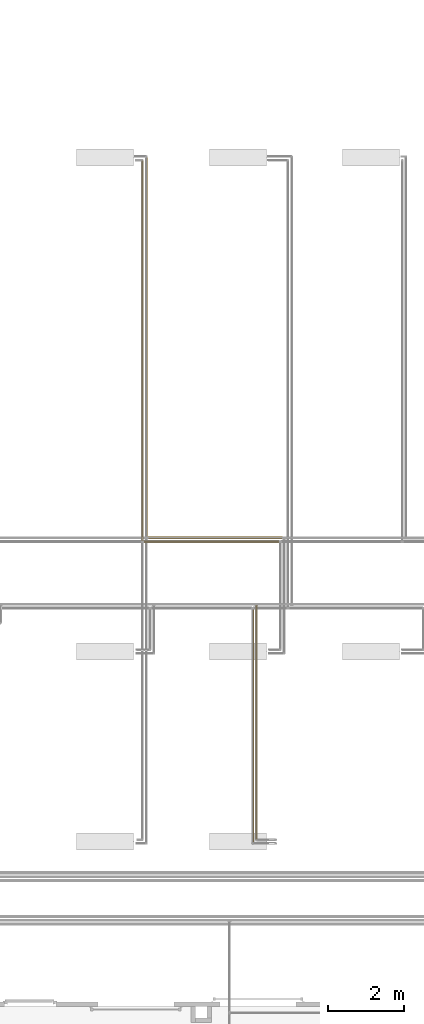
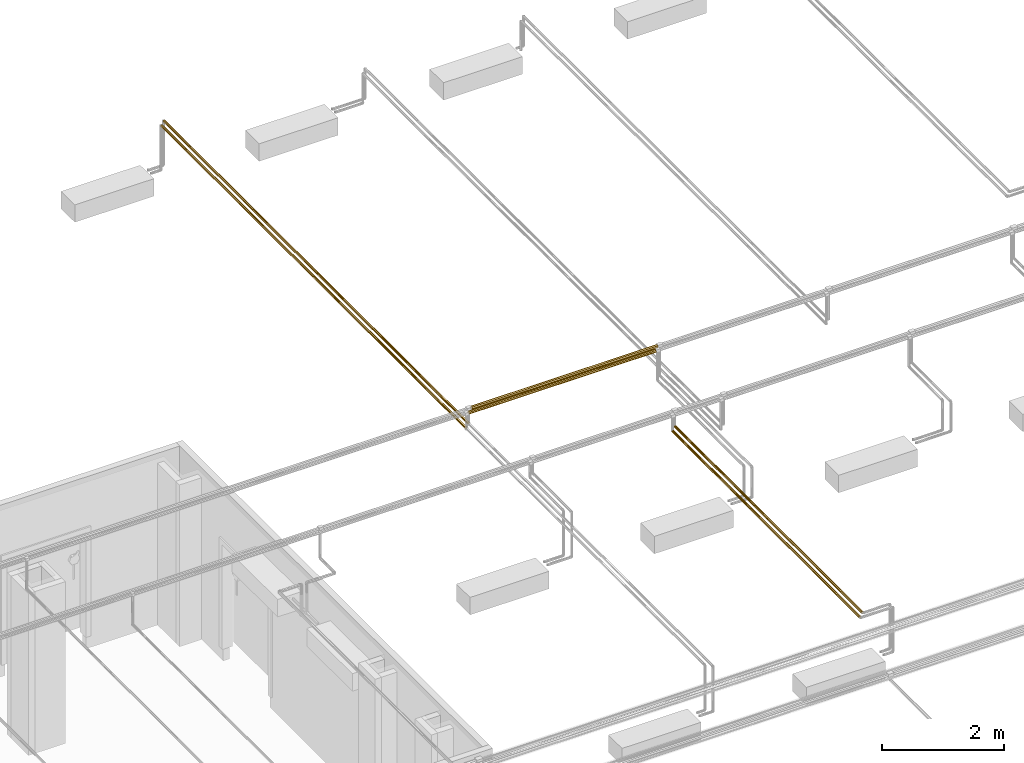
# One storey, part 126 of 652: 6 coverings.
"""IFC2X3 building model written with IfcOpenShell, lengths in millimetres."""

from ifc_helpers import new_model, entity, si_unit, converted_unit, direction, frame, origin, place, context, subcontext, project, spatial, faceted_brep, material, type_object, element, save


model = new_model("IFC2X3")

# Units and contexts
model_context = context("Model", 3, precision=0.01, world=frame((0.0, 0.0, 308426.39999999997)), true_north=direction((6.123233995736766e-17, 1.0)))
plan_context = context("Plan", 3, precision=0.01, world=frame((0.0, 0.0, 308426.39999999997)), true_north=direction((6.123233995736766e-17, 1.0)))
body_context = subcontext(model_context, "Body", "Model", "MODEL_VIEW")
ifc_project = project(units=[si_unit("LENGTHUNIT", "METRE", prefix="MILLI"), si_unit("AREAUNIT", "SQUARE_METRE"), si_unit("VOLUMEUNIT", "CUBIC_METRE"), converted_unit("PLANEANGLEUNIT", "DEGREE", entity("IfcPlaneAngleMeasure", 0.017453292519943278), si_unit("PLANEANGLEUNIT", "RADIAN"), dimensions=[0, 0, 0, 0, 0, 0, 0])], contexts=[model_context, plan_context])

# Site, building, storey
site_placement = place(None, origin())
site = spatial("IfcSite", under=ifc_project, at=site_placement, Name="Default", CompositionType="ELEMENT")
building_placement = place(site_placement, origin())
building = spatial("IfcBuilding", under=site, at=building_placement, CompositionType="ELEMENT")
storey_placement = place(building_placement, frame((0.0, 0.0, 1730.6999999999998)))
storey = spatial("IfcBuildingStorey", under=building, at=storey_placement, Name="EG_Produktion_FFB", CompositionType="ELEMENT", Elevation=1730.6999999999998)

# Coverings
ifc_material = material(Name="Dämmung - Armaflex-Schlauch")
covering_type = type_object("IfcCoveringType", Name="Rohrdämmung außen:Armaflex-Schlauch", PredefinedType="INSULATION")
covering_1_placement = place(storey_placement, frame((55478.06018313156, 69880.11722776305, 3934.882772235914)))
element("IfcCovering", 1, at=covering_1_placement, inside=storey, type_object=covering_type, material=ifc_material, Name="Rohrdämmung außen:Armaflex-Schlauch", ObjectType="Rohrdämmung außen:Armaflex-Schlauch", PredefinedType="INSULATION", context=body_context, shape_type="Brep", body=[
    faceted_brep([(3536.192066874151, 68.1702722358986, -34.882772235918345), (3536.1920668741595, 66.19539462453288, -30.114995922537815), (3536.192066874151, 63.295430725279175, -23.113863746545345), (3536.1920668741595, 60.85800996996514, -17.2294095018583), (3536.192066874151, 58.420589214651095, -11.344955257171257), (3536.192066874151, 52.536134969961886, -8.907534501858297), (3536.192066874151, 46.651680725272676, -6.470113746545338), (3536.192066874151, 40.76722648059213, -4.032692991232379), (3536.192066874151, 34.88277223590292, -1.5952722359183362), (3536.192066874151, 30.11499592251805, -3.5701498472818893), (3536.192066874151, 23.113863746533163, -6.470113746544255), (3536.192066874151, 17.22940950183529, -8.907534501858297), (3536.192066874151, 11.344955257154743, -11.344955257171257), (3536.192066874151, 8.9075345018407, -17.22940950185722), (3536.192066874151, 6.470113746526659, -23.11386374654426), (3536.1920668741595, 4.032692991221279, -28.998317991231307), (3536.192066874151, 1.5952722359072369, -34.882772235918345), (3536.192066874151, 4.032692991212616, -40.767226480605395), (3536.192066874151, 6.470113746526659, -46.65168072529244), (3536.192066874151, 8.907534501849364, -52.53613496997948), (3536.192066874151, 11.344955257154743, -58.42058921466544), (3536.1920668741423, 17.229409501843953, -60.8580099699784), (3536.192066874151, 23.113863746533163, -63.29543072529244), (3536.1920668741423, 28.99831799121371, -65.7328514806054), (3536.192066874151, 34.88277223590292, -68.17027223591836), (3536.1920668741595, 39.650548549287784, -66.19539462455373), (3536.192066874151, 46.651680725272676, -63.29543072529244), (3536.192066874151, 52.53613496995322, -60.858009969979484), (3536.192066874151, 58.420589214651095, -58.42058921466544), (3536.1920668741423, 60.85800996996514, -52.53613496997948), (3536.192066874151, 63.295430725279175, -46.65168072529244), (3536.192066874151, 65.73285148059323, -40.767226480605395), (0.0, 52.53613496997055, -60.85800996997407), (0.0, 46.65168072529, -63.295430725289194), (0.0, 40.76722648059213, -65.73285148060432), (0.0, 34.88277223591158, -68.1702722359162), (0.0, 25.34721960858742, -64.2205170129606), (0.0, 18.346087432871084, -61.32055311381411), (0.0, 11.344955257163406, -58.42058921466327), (0.0, 8.907534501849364, -52.536134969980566), (0.0, 6.470113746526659, -46.65168072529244), (0.0, 4.032692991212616, -40.76722648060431), (0.0, 1.5952722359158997, -34.882772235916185), (0.0, 5.5450274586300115, -25.347219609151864), (0.0, 8.444991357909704, -18.346087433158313), (0.0, 11.344955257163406, -11.344955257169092), (0.0, 17.229409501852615, -8.907534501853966), (0.0, 23.113863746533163, -6.470113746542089), (0.0, 28.998317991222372, -4.0326929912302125), (0.0, 34.88277223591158, -1.5952722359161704), (0.0, 44.41832486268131, -5.54502745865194), (0.0, 51.41945703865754, -8.444991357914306), (0.0, 58.420589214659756, -11.344955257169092), (0.0, 60.85800996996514, -17.229409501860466), (0.0, 63.295430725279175, -23.11386374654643), (0.0, 65.73285148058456, -28.998317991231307), (0.0, 68.17027223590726, -34.882772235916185), (0.0, 64.2205170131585, -44.4183248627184), (0.0, 61.32055311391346, -51.41945703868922), (0.0, 58.420589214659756, -58.42058921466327)], [[[0, 1, 2, 3, 4, 5, 6, 7, 8, 9, 10, 11, 12, 13, 14, 15, 16, 17, 18, 19, 20, 21, 22, 23, 24, 25, 26, 27, 28, 29, 30, 31]], [[32, 33, 34, 35, 36, 37, 38, 39, 40, 41, 42, 43, 44, 45, 46, 47, 48, 49, 50, 51, 52, 53, 54, 55, 56, 57, 58, 59]], [[40, 39, 38, 20, 19, 18, 17, 16, 42, 41]], [[36, 35, 24, 23, 22, 21, 20, 38, 37]], [[33, 32, 59, 28, 27, 26, 25, 24, 35, 34]], [[28, 59, 58, 57, 56, 0, 31, 30, 29]], [[54, 53, 52, 4, 3, 2, 1, 0, 56, 55]], [[4, 52, 51, 50, 49, 8, 7, 6, 5]], [[47, 46, 45, 12, 11, 10, 9, 8, 49, 48]], [[12, 45, 44, 43, 42, 16, 15, 14, 13]]]),
])
covering_2_placement = place(storey_placement, frame((55369.360683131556, 69783.29222776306, 3868.2922277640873)))
element("IfcCovering", 2, at=covering_2_placement, inside=storey, type_object=covering_type, material=ifc_material, Name="Rohrdämmung außen:Armaflex-Schlauch", ObjectType="Rohrdämmung außen:Armaflex-Schlauch", PredefinedType="INSULATION", context=body_context, shape_type="Brep", body=[
    faceted_brep([(3553.5910668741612, 61.8202722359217, 31.70777223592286), (3553.5910668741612, 60.129414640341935, 35.78986357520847), (3553.5910668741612, 57.41039871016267, 42.354148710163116), (3553.5910668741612, 55.20546194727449, 47.67733694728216), (3553.5910668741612, 53.000525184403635, 53.000525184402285), (3553.5910668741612, 47.677336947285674, 55.2054619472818), (3553.5910668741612, 42.35414871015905, 57.4103987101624), (3553.5910668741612, 37.03096047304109, 59.615335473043), (3553.5910668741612, 31.70777223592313, 61.82027223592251), (3553.5910668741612, 27.62568089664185, 60.12941464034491), (3553.5910668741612, 21.06139576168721, 57.4103987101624), (3553.5910668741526, 15.738207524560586, 55.2054619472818), (3553.5910668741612, 10.415019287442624, 53.000525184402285), (3553.5910668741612, 8.21008252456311, 47.67733694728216), (3553.5910668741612, 6.005145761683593, 42.354148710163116), (3553.5910668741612, 3.800208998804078, 37.03096047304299), (3553.5910668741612, 1.5952722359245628, 31.70777223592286), (3553.5910668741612, 3.800208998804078, 26.384583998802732), (3553.5910668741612, 6.005145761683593, 21.061395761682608), (3553.5910668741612, 8.21008252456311, 15.738207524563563), (3553.5910668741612, 10.415019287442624, 10.415019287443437), (3553.5910668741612, 15.738207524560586, 8.210082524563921), (3553.5910668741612, 21.06139576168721, 6.005145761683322), (3553.5910668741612, 26.384583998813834, 3.8002089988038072), (3553.5910668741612, 31.70777223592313, 1.5952722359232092), (3553.5910668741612, 35.789863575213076, 3.286129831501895), (3553.59106687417, 42.35414871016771, 6.005145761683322), (3553.5910668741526, 47.677336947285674, 8.210082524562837), (3553.5910668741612, 53.000525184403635, 10.415019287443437), (3553.5910668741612, 55.205461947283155, 15.738207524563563), (3553.59106687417, 57.410398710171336, 21.061395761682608), (3553.59106687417, 59.61533547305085, 26.384583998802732), (0.0, 47.677336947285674, 8.210082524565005), (0.0, 42.35414871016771, 6.005145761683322), (0.0, 37.03096047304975, 3.8002089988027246), (0.0, 31.707772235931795, 1.595272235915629), (0.0, 23.54358955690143, 4.976987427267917), (0.0, 16.979304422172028, 7.696003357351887), (0.0, 10.415019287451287, 10.415019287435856), (0.0, 8.210082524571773, 15.738207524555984), (0.0, 6.005145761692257, 21.06139576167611), (0.0, 3.8002089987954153, 26.384583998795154), (0.0, 1.5952722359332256, 31.707772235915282), (0.0, 4.9769874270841, 39.87195491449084), (0.0, 7.696003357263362, 46.43624004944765), (0.0, 10.415019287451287, 53.000525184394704), (0.0, 15.738207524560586, 55.205461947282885), (0.0, 21.06139576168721, 57.4103987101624), (0.0, 26.384583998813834, 59.615335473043), (0.0, 31.707772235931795, 61.820272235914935), (0.0, 39.87195491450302, 58.438557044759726), (0.0, 46.43624004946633, 55.71954111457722), (0.0, 53.000525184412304, 53.000525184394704), (0.0, 55.205461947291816, 47.677336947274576), (0.0, 57.410398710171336, 42.354148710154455), (0.0, 59.61533547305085, 37.03096047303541), (0.0, 61.82027223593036, 31.707772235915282), (0.0, 58.4385570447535, 23.543589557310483), (0.0, 55.719541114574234, 16.979304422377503), (0.0, 53.000525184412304, 10.415019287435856)], [[[0, 1, 2, 3, 4, 5, 6, 7, 8, 9, 10, 11, 12, 13, 14, 15, 16, 17, 18, 19, 20, 21, 22, 23, 24, 25, 26, 27, 28, 29, 30, 31]], [[32, 33, 34, 35, 36, 37, 38, 39, 40, 41, 42, 43, 44, 45, 46, 47, 48, 49, 50, 51, 52, 53, 54, 55, 56, 57, 58, 59]], [[40, 39, 38, 20, 19, 18, 17, 16, 42, 41]], [[36, 35, 24, 23, 22, 21, 20, 38, 37]], [[33, 32, 59, 28, 27, 26, 25, 24, 35, 34]], [[28, 59, 58, 57, 56, 0, 31, 30, 29]], [[54, 53, 52, 4, 3, 2, 1, 0, 56, 55]], [[4, 52, 51, 50, 49, 8, 7, 6, 5]], [[47, 46, 45, 12, 11, 10, 9, 8, 49, 48]], [[12, 45, 44, 43, 42, 16, 15, 14, 13]]]),
])
covering_3_placement = place(storey_placement, frame((55406.95466089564, 69933.05397776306, 3574.6422277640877)))
element("IfcCovering", 3, at=covering_3_placement, inside=storey, type_object=covering_type, material=ifc_material, Name="Rohrdämmung außen:Armaflex-Schlauch", ObjectType="Rohrdämmung außen:Armaflex-Schlauch", PredefinedType="INSULATION", context=body_context, shape_type="Brep", body=[
    faceted_brep([(12.755803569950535, 1.5952722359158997, 6.8151785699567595), (16.956459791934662, 1.5952722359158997, 5.075209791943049), (20.4540186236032, 1.5952722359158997, 3.6264734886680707), (25.35777223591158, 1.5952722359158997, 1.595272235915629), (29.558428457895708, 1.5952722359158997, 3.335241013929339), (33.759084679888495, 1.5952722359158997, 5.075209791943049), (37.95974090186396, 1.5952722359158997, 6.8151785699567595), (42.160397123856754, 1.5952722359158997, 8.55514734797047), (43.90036590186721, 1.5952722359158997, 12.755803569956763), (45.640334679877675, 1.5952722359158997, 16.956459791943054), (47.089070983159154, 1.5952722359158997, 20.454018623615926), (49.12027223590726, 1.5952722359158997, 25.35777223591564), (47.7397929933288, 1.5952722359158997, 30.91636154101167), (46.35931375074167, 1.5952722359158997, 36.474950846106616), (42.53992347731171, 1.5952722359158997, 40.740986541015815), (38.72053320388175, 1.5952722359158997, 45.007022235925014), (11.995011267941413, 1.5952722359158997, 45.007022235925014), (8.175620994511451, 1.5952722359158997, 40.7409865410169), (4.356230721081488, 1.5952722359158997, 36.474950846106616), (2.9757514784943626, 1.5952722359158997, 30.91636154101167), (1.5952722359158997, 1.5952722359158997, 25.35777223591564), (3.626473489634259, 1.5952722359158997, 20.454018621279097), (5.075209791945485, 1.5952722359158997, 16.956459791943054), (6.815178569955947, 1.5952722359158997, 12.755803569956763), (8.55514734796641, 1.5952722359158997, 8.55514734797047), (40.928415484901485, 10003.998427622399, 7.40752223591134), (9.787128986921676, 10003.998427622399, 7.40752223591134), (6.764379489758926, 10003.998427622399, 11.448105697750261), (3.7416299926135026, 10003.998427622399, 15.4886891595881), (2.743952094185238, 10003.998427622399, 20.076072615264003), (1.5952722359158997, 10003.998427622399, 25.35777223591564), (3.62647348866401, 10003.998427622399, 30.26152584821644), (5.075209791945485, 10003.998427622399, 33.759084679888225), (6.815178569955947, 10003.998427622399, 37.95974090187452), (8.55514734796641, 10003.998427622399, 42.16039712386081), (12.755803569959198, 10003.998427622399, 43.90036590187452), (16.956459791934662, 10003.998427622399, 45.640334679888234), (21.157116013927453, 10003.998427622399, 47.380303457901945), (25.35777223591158, 10003.998427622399, 49.12027223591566), (29.558428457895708, 10003.998427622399, 47.380303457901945), (33.759084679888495, 10003.998427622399, 45.640334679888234), (37.95974090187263, 10003.998427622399, 43.90036590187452), (42.160397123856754, 10003.998427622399, 42.16039712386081), (43.90036590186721, 10003.998427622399, 37.95974090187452), (45.640334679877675, 10003.998427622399, 33.759084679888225), (47.089070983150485, 10003.998427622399, 30.261525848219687), (49.12027223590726, 10003.998427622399, 25.35777223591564), (47.971592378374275, 10003.998427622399, 20.076072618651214), (46.97391447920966, 10003.998427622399, 15.48868915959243), (43.95116498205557, 10003.998427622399, 11.448105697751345), (13.417429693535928, 10001.84251930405, 5.251613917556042), (17.047730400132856, 9999.686610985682, 3.0957055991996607), (1.5952722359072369, 4557.297604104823, 25.35777223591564), (25.35777223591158, 4551.305281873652, 1.595272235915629), (20.02620166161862, 9999.148828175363, 2.55792278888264), (25.35777223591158, 9998.186177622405, 1.595272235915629), (25.35777223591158, 5448.330844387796, 1.595272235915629), (1.5952722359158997, 5448.2960868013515, 25.35777223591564), (37.49322887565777, 5322.869569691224, 4.927718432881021), (30.68934281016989, 9999.148828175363, 2.5579227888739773), (33.66781407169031, 9999.686610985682, 3.0957055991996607), (37.2981147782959, 10001.84251930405, 5.251613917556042), (49.12027223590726, 4557.297612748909, 25.35777223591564), (49.12027223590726, 5448.296087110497, 25.35777223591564), (32.34851980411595, 4.656941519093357, 48.0686915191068), (25.35777223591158, 4557.297612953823, 49.12027223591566), (25.35777223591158, 5.708522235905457, 49.12027223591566), (18.36702466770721, 4.656941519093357, 48.0686915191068)], [[[0, 1, 2, 3, 4, 5, 6, 7, 8, 9, 10, 11, 12, 13, 14, 15, 16, 17, 18, 19, 20, 21, 22, 23, 24]], [[25, 26, 27, 28, 29, 30, 31, 32, 33, 34, 35, 36, 37, 38, 39, 40, 41, 42, 43, 44, 45, 46, 47, 48, 49]], [[21, 29, 22]], [[50, 51, 1]], [[21, 20, 52]], [[22, 29, 28]], [[23, 22, 28]], [[0, 24, 26]], [[0, 26, 50]], [[53, 3, 2]], [[26, 24, 27]], [[54, 2, 51]], [[51, 2, 1]], [[54, 55, 56, 53]], [[2, 54, 53]], [[27, 24, 23]], [[29, 52, 57, 30]], [[29, 21, 52]], [[23, 28, 27]], [[50, 1, 0]], [[58, 7, 6, 5]], [[4, 59, 60]], [[4, 3, 53, 56]], [[7, 58, 25]], [[58, 60, 61, 25]], [[48, 8, 49]], [[10, 47, 62]], [[56, 59, 4]], [[56, 55, 59]], [[47, 46, 63, 62]], [[4, 60, 5]], [[9, 8, 48]], [[9, 47, 10]], [[49, 8, 7]], [[5, 60, 58]], [[47, 9, 48]], [[62, 11, 10]], [[49, 7, 25]], [[44, 12, 45]], [[12, 11, 62, 63]], [[64, 40, 39]], [[15, 14, 42]], [[12, 44, 13]], [[43, 14, 13]], [[65, 66, 64]], [[39, 38, 65]], [[63, 45, 12]], [[15, 42, 41, 40]], [[65, 64, 39]], [[15, 40, 64]], [[13, 44, 43]], [[43, 42, 14]], [[63, 46, 45]], [[37, 65, 38]], [[18, 32, 19]], [[16, 34, 17]], [[37, 36, 67]], [[67, 36, 16]], [[16, 36, 35, 34]], [[19, 57, 52, 20]], [[67, 65, 37]], [[17, 33, 18]], [[65, 67, 66]], [[17, 34, 33]], [[19, 31, 57]], [[33, 32, 18]], [[31, 19, 32]], [[31, 30, 57]], [[67, 16, 15, 64, 66]], [[60, 59, 55, 54, 51, 50, 26, 25, 61]]]),
])
covering_4_placement = place(storey_placement, frame((58306.95466089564, 61986.39153550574, 3574.642227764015)))
element("IfcCovering", 4, at=covering_4_placement, inside=storey, type_object=covering_type, material=ifc_material, Name="Rohrdämmung außen:Armaflex-Schlauch", ObjectType="Rohrdämmung außen:Armaflex-Schlauch", PredefinedType="INSULATION", context=body_context, shape_type="Brep", body=[
    faceted_brep([(9.787128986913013, 6160.658214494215, 43.30802223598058), (40.92841548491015, 6160.658214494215, 43.30802223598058), (43.951164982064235, 6160.658214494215, 39.26743877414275), (46.97391447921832, 6160.658214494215, 35.22685531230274), (48.047093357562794, 6160.658214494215, 30.292313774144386), (49.12027223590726, 6160.658214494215, 25.357772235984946), (47.38030345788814, 6160.658214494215, 21.157116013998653), (45.640334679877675, 6160.658214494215, 16.95645979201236), (43.90036590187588, 6160.658214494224, 12.755803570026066), (42.160397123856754, 6160.658214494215, 8.555147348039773), (37.95974090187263, 6160.658214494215, 6.815178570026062), (33.759084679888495, 6160.658214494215, 5.075209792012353), (28.659821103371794, 6160.658214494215, 2.9630256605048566), (25.35777223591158, 6160.658214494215, 1.5952722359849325), (22.055723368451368, 6160.658214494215, 2.963025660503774), (16.956459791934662, 6160.658214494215, 5.075209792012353), (12.755803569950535, 6160.658214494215, 6.815178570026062), (8.55514734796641, 6160.658214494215, 8.555147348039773), (6.815178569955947, 6160.658214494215, 12.755803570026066), (5.075209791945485, 6160.658214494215, 16.95645979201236), (3.3352410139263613, 6160.658214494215, 21.157116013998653), (1.5952722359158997, 6160.658214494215, 25.357772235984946), (2.6684511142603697, 6160.658214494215, 30.292313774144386), (3.7416299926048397, 6160.658214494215, 35.22685531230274), (6.764379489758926, 6160.658214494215, 39.26743877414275), (43.30802223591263, 1.5952722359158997, 40.928415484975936), (39.26743877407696, 1.5952722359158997, 43.951164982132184), (35.22685531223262, 1.5952722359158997, 46.97391447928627), (30.292313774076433, 1.5952722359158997, 48.04709335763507), (25.35777223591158, 1.5952722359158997, 49.12027223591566), (21.157116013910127, 1.5952722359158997, 47.38030345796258), (16.956459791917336, 1.5952722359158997, 45.64033467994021), (12.755803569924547, 1.5952722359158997, 43.90036590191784), (8.55514734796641, 1.5952722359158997, 42.16039712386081), (6.815178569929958, 1.5952722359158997, 37.95974090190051), (5.07520979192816, 1.5952722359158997, 33.759084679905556), (3.3352410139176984, 1.5952722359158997, 29.558428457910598), (1.5952722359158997, 1.5952722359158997, 25.35777223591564), (4.330779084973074, 1.5952722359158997, 18.753674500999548), (6.4429632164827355, 1.5952722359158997, 13.654410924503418), (8.55514734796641, 1.5952722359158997, 8.55514734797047), (12.755803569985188, 1.5952722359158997, 6.815178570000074), (16.95645979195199, 1.5952722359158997, 5.075209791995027), (21.157116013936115, 1.5952722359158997, 3.3352410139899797), (25.35777223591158, 1.5952722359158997, 1.595272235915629), (30.29231377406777, 1.5952722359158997, 2.668451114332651), (35.22685531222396, 1.5952722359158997, 3.741629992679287), (39.267438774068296, 1.5952722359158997, 6.764379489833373), (43.30802223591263, 1.5952722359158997, 9.78712898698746), (49.12027223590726, 7.407522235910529, 25.35777223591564), (48.37005555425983, 6.657305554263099, 21.20275131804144), (47.6198388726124, 5.9070888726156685, 17.047730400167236), (45.46393055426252, 3.751180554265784, 13.417429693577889), (21.202751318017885, 6155.59618117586, 48.37005555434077), (17.04773040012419, 6156.346397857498, 47.61983887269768), (13.417429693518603, 6158.502306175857, 45.46393055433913), (25.35777223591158, 6154.845964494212, 49.120272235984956), (29.512793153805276, 6155.59618117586, 48.37005555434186), (33.66781407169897, 6156.346397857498, 47.61983887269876), (37.29811477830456, 6158.502306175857, 45.463930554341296), (45.46393055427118, 3.75118055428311, 37.298114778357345), (48.37005555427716, 6.657305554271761, 29.51279315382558), (47.61983887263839, 5.9070888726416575, 33.66781407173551)], [[[0, 1, 2, 3, 4, 5, 6, 7, 8, 9, 10, 11, 12, 13, 14, 15, 16, 17, 18, 19, 20, 21, 22, 23, 24]], [[25, 26, 27, 28, 29, 30, 31, 32, 33, 34, 35, 36, 37, 38, 39, 40, 41, 42, 43, 44, 45, 46, 47, 48]], [[49, 50, 5]], [[45, 44, 12]], [[6, 50, 51]], [[52, 7, 51]], [[46, 10, 47]], [[46, 45, 11]], [[48, 8, 52]], [[44, 13, 12]], [[47, 10, 9]], [[11, 45, 12]], [[46, 11, 10]], [[9, 48, 47]], [[5, 50, 6]], [[6, 51, 7]], [[8, 48, 9]], [[8, 7, 52]], [[42, 41, 40, 17, 16, 15, 14, 13, 44, 43]], [[17, 40, 39, 38, 37, 21, 20, 19, 18]], [[24, 34, 33]], [[29, 53, 30]], [[33, 0, 24]], [[35, 23, 22]], [[35, 34, 23]], [[37, 36, 21]], [[54, 31, 30]], [[22, 36, 35]], [[31, 54, 55]], [[21, 36, 22]], [[53, 54, 30]], [[0, 32, 55]], [[23, 34, 24]], [[56, 53, 29]], [[32, 0, 33]], [[32, 31, 55]], [[57, 56, 29]], [[28, 58, 57]], [[59, 26, 1]], [[2, 60, 3]], [[59, 58, 27]], [[60, 2, 25]], [[61, 5, 4]], [[27, 58, 28]], [[61, 49, 5]], [[57, 29, 28]], [[26, 59, 27]], [[3, 62, 4]], [[26, 25, 1]], [[4, 62, 61]], [[2, 1, 25]], [[60, 62, 3]], [[1, 0, 55, 54, 53, 56, 57, 58, 59]], [[25, 48, 52, 51, 50, 49, 61, 62, 60]]]),
])
covering_5_placement = place(storey_placement, frame((58206.95466089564, 61886.39153550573, 3574.6422277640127)))
element("IfcCovering", 5, at=covering_5_placement, inside=storey, type_object=covering_type, material=ifc_material, Name="Rohrdämmung außen:Armaflex-Schlauch", ObjectType="Rohrdämmung außen:Armaflex-Schlauch", PredefinedType="INSULATION", context=body_context, shape_type="Brep", body=[
    faceted_brep([(1.5952722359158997, 1.5952722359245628, 25.35777223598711), (3.3352410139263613, 1.5952722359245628, 21.157116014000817), (5.075209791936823, 1.5952722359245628, 16.956459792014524), (6.815178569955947, 1.5952722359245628, 12.755803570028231), (8.55514734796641, 1.5952722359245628, 8.555147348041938), (12.755803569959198, 1.5952722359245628, 6.815178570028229), (16.956459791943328, 1.5952722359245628, 5.075209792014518), (21.157116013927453, 1.5952722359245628, 3.3352410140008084), (25.35777223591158, 1.5952722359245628, 1.5952722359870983), (30.292313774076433, 1.5952722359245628, 2.6684511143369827), (35.22685531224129, 1.5952722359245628, 3.7416299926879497), (39.26743877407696, 1.5952722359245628, 6.7643794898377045), (43.30802223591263, 1.5952722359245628, 9.78712898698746), (43.30802223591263, 1.5952722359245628, 40.92841548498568), (39.26743877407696, 1.5952722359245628, 43.95116498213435), (35.22685531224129, 1.5952722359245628, 46.97391447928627), (30.292313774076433, 1.5952722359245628, 48.04709335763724), (25.35777223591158, 1.5952722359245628, 49.12027223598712), (21.15711601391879, 1.5952722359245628, 47.38030345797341), (16.956459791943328, 1.5952722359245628, 45.6403346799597), (12.755803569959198, 1.5952722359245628, 43.900365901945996), (8.55514734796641, 1.5952722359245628, 42.160397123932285), (6.815178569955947, 1.5952722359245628, 37.95974090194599), (5.075209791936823, 1.5952722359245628, 33.7590846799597), (2.963025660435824, 1.5952722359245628, 28.65982110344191), (1.5952722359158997, 6160.6582144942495, 25.35777223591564), (2.668451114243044, 6160.6582144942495, 30.292313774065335), (3.741629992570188, 6160.6582144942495, 35.22685531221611), (6.764379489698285, 6160.6582144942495, 39.26743877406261), (9.787128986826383, 6160.6582144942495, 43.30802223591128), (40.928415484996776, 6160.6582144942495, 43.30802223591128), (43.95116498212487, 6160.6582144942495, 39.26743877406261), (46.973914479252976, 6160.6582144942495, 35.22685531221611), (48.04709335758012, 6160.6582144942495, 30.292313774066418), (49.12027223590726, 6160.6582144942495, 25.35777223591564), (47.38030345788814, 6160.6582144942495, 21.157116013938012), (45.640334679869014, 6160.6582144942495, 16.956459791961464), (43.90036590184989, 6160.6582144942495, 12.755803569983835), (42.160397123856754, 6160.6582144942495, 8.55514734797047), (37.95974090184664, 6160.6582144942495, 6.815178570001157), (33.75908467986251, 6160.6582144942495, 5.07520979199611), (29.558428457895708, 6160.6582144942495, 3.3352410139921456), (25.35777223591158, 6160.6582144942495, 1.595272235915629), (18.75367450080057, 6160.6582144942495, 4.330779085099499), (13.654410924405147, 6160.6582144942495, 6.442963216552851), (8.55514734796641, 6160.6582144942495, 8.55514734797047), (6.815178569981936, 6160.6582144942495, 12.755803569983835), (5.075209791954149, 6160.6582144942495, 16.956459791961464), (3.335241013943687, 6160.658214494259, 21.157116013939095), (48.3700555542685, 6.657305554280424, 21.2027513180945), (47.61983887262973, 5.9070888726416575, 17.04773040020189), (45.46393055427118, 3.75118055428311, 13.417429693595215), (49.12027223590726, 7.407522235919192, 25.35777223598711), (48.3700555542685, 6.657305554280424, 29.512793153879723), (47.61983887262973, 5.9070888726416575, 33.66781407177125), (45.46393055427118, 3.75118055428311, 37.29811477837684), (37.298114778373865, 6158.502306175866, 45.463930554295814), (33.667814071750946, 6156.346397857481, 47.619838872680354), (29.512793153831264, 6155.596181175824, 48.37005555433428), (25.35777223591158, 6154.845964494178, 49.12027223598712), (21.202751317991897, 6155.596181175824, 48.37005555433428), (17.047730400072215, 6156.346397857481, 47.619838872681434), (13.417429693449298, 6158.502306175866, 45.463930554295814)], [[[0, 1, 2, 3, 4, 5, 6, 7, 8, 9, 10, 11, 12, 13, 14, 15, 16, 17, 18, 19, 20, 21, 22, 23, 24]], [[25, 26, 27, 28, 29, 30, 31, 32, 33, 34, 35, 36, 37, 38, 39, 40, 41, 42, 43, 44, 45, 46, 47, 48]], [[47, 46, 45, 4, 3, 2, 1, 0, 25, 48]], [[43, 42, 8, 7, 6, 5, 4, 45, 44]], [[11, 39, 38]], [[42, 41, 8]], [[40, 10, 9]], [[40, 39, 10]], [[34, 49, 35]], [[50, 36, 35]], [[12, 37, 51]], [[9, 41, 40]], [[36, 50, 51]], [[10, 39, 11]], [[49, 50, 35]], [[8, 41, 9]], [[38, 12, 11]], [[52, 49, 34]], [[37, 12, 38]], [[37, 36, 51]], [[53, 52, 34]], [[33, 54, 53]], [[55, 31, 13]], [[14, 56, 15]], [[56, 57, 15]], [[56, 14, 30]], [[55, 54, 32]], [[58, 17, 16]], [[32, 54, 33]], [[58, 59, 17]], [[53, 34, 33]], [[31, 30, 13]], [[31, 55, 32]], [[14, 13, 30]], [[16, 57, 58]], [[15, 57, 16]], [[59, 60, 17]], [[26, 25, 24]], [[18, 60, 61]], [[27, 22, 28]], [[62, 19, 61]], [[21, 29, 28]], [[27, 26, 23]], [[23, 26, 24]], [[17, 60, 18]], [[28, 22, 21]], [[25, 0, 24]], [[27, 23, 22]], [[19, 62, 20]], [[29, 20, 62]], [[18, 61, 19]], [[20, 29, 21]], [[12, 51, 50, 49, 52, 53, 54, 55, 13]], [[57, 56, 30, 29, 62, 61, 60, 59, 58]]]),
])
covering_6_placement = place(storey_placement, frame((55306.95466089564, 69833.05397776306, 3574.642227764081)))
element("IfcCovering", 6, at=covering_6_placement, inside=storey, type_object=covering_type, material=ifc_material, Name="Rohrdämmung außen:Armaflex-Schlauch", ObjectType="Rohrdämmung außen:Armaflex-Schlauch", PredefinedType="INSULATION", context=body_context, shape_type="Brep", body=[
    faceted_brep([(12.755803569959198, 1.5952722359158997, 6.8151785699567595), (16.956459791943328, 1.5952722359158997, 5.075209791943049), (20.4540186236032, 1.5952722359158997, 3.6264734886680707), (25.35777223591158, 1.5952722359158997, 1.595272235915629), (29.558428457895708, 1.5952722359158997, 3.335241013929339), (33.759084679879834, 1.5952722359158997, 5.075209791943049), (37.95974090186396, 1.5952722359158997, 6.8151785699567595), (42.160397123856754, 1.5952722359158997, 8.55514734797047), (43.90036590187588, 1.5952722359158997, 12.755803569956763), (45.640334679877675, 1.5952722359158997, 16.956459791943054), (47.089070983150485, 1.5952722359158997, 20.454018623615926), (49.12027223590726, 1.5952722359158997, 25.35777223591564), (47.73979299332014, 1.5952722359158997, 30.916361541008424), (46.35931375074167, 1.5952722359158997, 36.47495084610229), (42.53992347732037, 1.5952722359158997, 40.7409865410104), (38.72053320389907, 1.5952722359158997, 45.00702223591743), (11.995011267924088, 1.5952722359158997, 45.00702223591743), (8.175620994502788, 1.5952722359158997, 40.7409865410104), (4.356230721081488, 1.5952722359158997, 36.47495084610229), (2.9757514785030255, 1.5952722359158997, 30.916361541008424), (1.5952722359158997, 1.5952722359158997, 25.35777223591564), (3.626473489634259, 1.5952722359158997, 20.454018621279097), (5.075209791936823, 1.5952722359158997, 16.956459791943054), (6.815178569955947, 1.5952722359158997, 12.755803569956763), (8.55514734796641, 1.5952722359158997, 8.55514734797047), (40.928415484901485, 10003.998427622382, 7.40752223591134), (9.787128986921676, 10003.998427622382, 7.40752223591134), (6.764379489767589, 10003.998427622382, 11.448105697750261), (3.7416299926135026, 10003.998427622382, 15.4886891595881), (2.743952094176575, 10003.998427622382, 20.076072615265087), (1.5952722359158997, 10003.998427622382, 25.35777223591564), (3.626473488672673, 10003.998427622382, 30.26152584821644), (5.075209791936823, 10003.998427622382, 33.759084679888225), (6.815178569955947, 10003.998427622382, 37.95974090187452), (8.55514734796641, 10003.998427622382, 42.16039712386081), (12.755803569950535, 10003.998427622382, 43.90036590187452), (16.956459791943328, 10003.998427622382, 45.640334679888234), (21.157116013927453, 10003.998427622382, 47.380303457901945), (25.35777223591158, 10003.998427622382, 49.12027223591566), (29.558428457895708, 10003.998427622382, 47.380303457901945), (33.759084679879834, 10003.998427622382, 45.640334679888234), (37.95974090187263, 10003.998427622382, 43.90036590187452), (42.160397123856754, 10003.998427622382, 42.16039712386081), (43.90036590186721, 10003.998427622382, 37.95974090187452), (45.64033467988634, 10003.998427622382, 33.759084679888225), (47.089070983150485, 10003.998427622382, 30.261525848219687), (49.12027223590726, 10003.998427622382, 25.35777223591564), (47.971592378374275, 10003.998427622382, 20.076072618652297), (46.97391447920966, 10003.998427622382, 15.48868915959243), (43.95116498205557, 10003.998427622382, 11.448105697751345), (13.417429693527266, 10001.842519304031, 5.251613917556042), (17.047730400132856, 9999.686610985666, 3.0957055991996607), (1.5952722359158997, 4557.297604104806, 25.35777223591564), (25.35777223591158, 4551.305281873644, 1.595272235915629), (20.026201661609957, 9999.148828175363, 2.55792278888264), (25.35777223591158, 9998.186177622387, 1.595272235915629), (25.35777223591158, 5448.330844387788, 1.595272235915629), (1.5952722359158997, 5448.2960868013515, 25.35777223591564), (37.49322887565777, 5322.869569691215, 4.927718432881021), (30.68934281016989, 9999.148828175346, 2.5579227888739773), (33.66781407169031, 9999.686610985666, 3.0957055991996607), (37.2981147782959, 10001.842519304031, 5.251613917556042), (49.12027223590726, 4557.297612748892, 25.35777223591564), (49.12027223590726, 5448.296087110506, 25.35777223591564), (32.348519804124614, 4.65694151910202, 48.06869151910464), (25.35777223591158, 4557.297612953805, 49.12027223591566), (25.35777223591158, 5.70852223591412, 49.12027223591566), (18.367024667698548, 4.65694151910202, 48.06869151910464)], [[[0, 1, 2, 3, 4, 5, 6, 7, 8, 9, 10, 11, 12, 13, 14, 15, 16, 17, 18, 19, 20, 21, 22, 23, 24]], [[25, 26, 27, 28, 29, 30, 31, 32, 33, 34, 35, 36, 37, 38, 39, 40, 41, 42, 43, 44, 45, 46, 47, 48, 49]], [[21, 29, 22]], [[50, 51, 1]], [[21, 20, 52]], [[22, 29, 28]], [[23, 22, 28]], [[0, 24, 26]], [[0, 26, 50]], [[53, 3, 2]], [[26, 24, 27]], [[54, 2, 51]], [[51, 2, 1]], [[54, 55, 56, 53]], [[2, 54, 53]], [[27, 24, 23]], [[29, 52, 57, 30]], [[29, 21, 52]], [[23, 28, 27]], [[50, 1, 0]], [[58, 7, 6, 5]], [[4, 59, 60]], [[4, 3, 53, 56]], [[7, 58, 25]], [[58, 60, 61, 25]], [[48, 8, 49]], [[10, 47, 62]], [[56, 59, 4]], [[56, 55, 59]], [[47, 46, 63, 62]], [[4, 60, 5]], [[9, 8, 48]], [[9, 47, 10]], [[49, 8, 7]], [[5, 60, 58]], [[47, 9, 48]], [[62, 11, 10]], [[49, 7, 25]], [[44, 12, 45]], [[12, 11, 62, 63]], [[64, 40, 39]], [[15, 14, 42]], [[12, 44, 13]], [[43, 14, 13]], [[65, 66, 64]], [[39, 38, 65]], [[63, 45, 12]], [[15, 42, 41, 40]], [[65, 64, 39]], [[15, 40, 64]], [[13, 44, 43]], [[43, 42, 14]], [[63, 46, 45]], [[37, 65, 38]], [[18, 32, 19]], [[16, 34, 17]], [[37, 36, 67]], [[67, 36, 16]], [[16, 36, 35, 34]], [[19, 57, 52, 20]], [[67, 65, 37]], [[17, 33, 18]], [[65, 67, 66]], [[17, 34, 33]], [[19, 31, 57]], [[33, 32, 18]], [[31, 19, 32]], [[31, 30, 57]], [[67, 16, 15, 64, 66]], [[60, 59, 55, 54, 51, 50, 26, 25, 61]]]),
])

save(model, "model.ifc")
